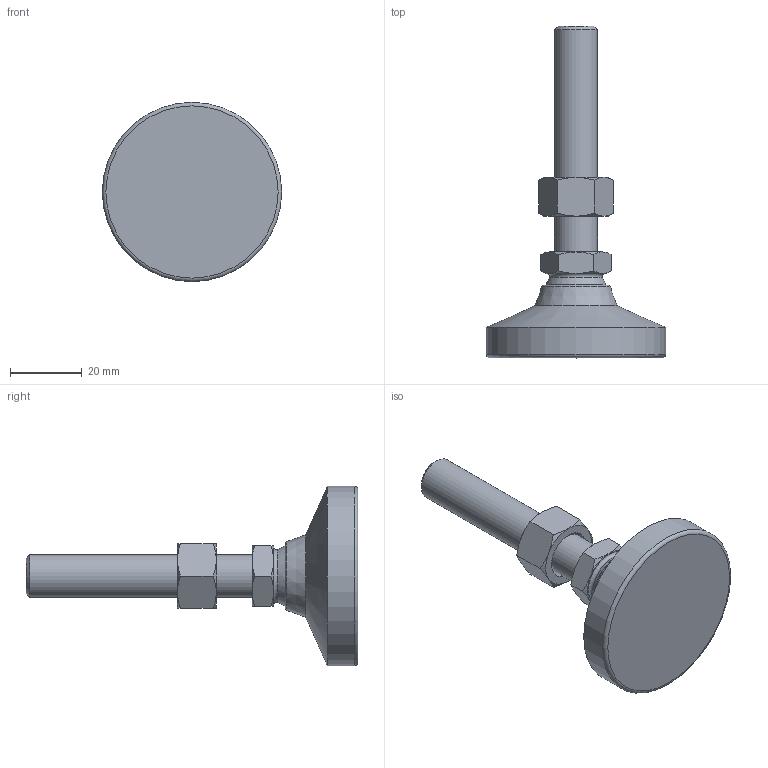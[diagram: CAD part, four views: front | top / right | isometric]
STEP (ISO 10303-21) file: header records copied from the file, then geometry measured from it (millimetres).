
FILE_DESCRIPTION( ( 'STEP AP214' ), ' ' );
FILE_NAME( 'O:/ganter_2015/teil_2/2_5/gn343_2/gn343_2_ks/Levelling foot with threaded stud GN 343.2-50-M12-63-KS-(0).stp', '2015-10-26T09:10:49', ( '' ), ( '' ), ' ', 'PARTsolutions', ' ' );
FILE_SCHEMA( ( 'AUTOMOTIVE_DESIGN { 1 0 10303 214 1 1 1 1 }' ) );
Length unit declared in the file: millimetre
Products named in the file (4): Levelling foot with threaded stud GN 343.2-50-M12-63-KS-(0); _Levelling foot with threaded stud GN 343.2-50-M12-63-KS-(0)_foot; _Gelenkfuss mit Schraube GN 343.2-50-M12-63-KS-(0)_screw; _GLevelling foot with threaded stud GN 343.2-50-M12-63-KS-(0)_nut
Assembly tree (3 placements, depth 2):
  Levelling foot with threaded stud GN 343.2-50-M12-63-KS-(0)
    _Levelling foot with threaded stud GN 343.2-50-M12-63-KS-(0)_foot
    _Gelenkfuss mit Schraube GN 343.2-50-M12-63-KS-(0)_screw
    _GLevelling foot with threaded stud GN 343.2-50-M12-63-KS-(0)_nut
Bounding box: 50 x 92.5 x 50 mm (x, y, z)
Volume: 36523.1 mm3; surface area: 11140 mm2
Topology: 3 solids, 3 shells, 56 faces, 117 edges, 68 vertices
Faces by surface type: cone 29, plane 19, torus 3, cylinder 3, sphere 2
Full cylindrical faces by diameter (mm): 10.106 x1, 12 x1, 50 x1
Entity records: 2066 total; most frequent: CARTESIAN_POINT 498, DIRECTION 212, ORIENTED_EDGE 200, AXIS2_PLACEMENT_3D 100, EDGE_CURVE 100, EDGE_LOOP 72, VERTEX_POINT 66, FACE_OUTER_BOUND 62
